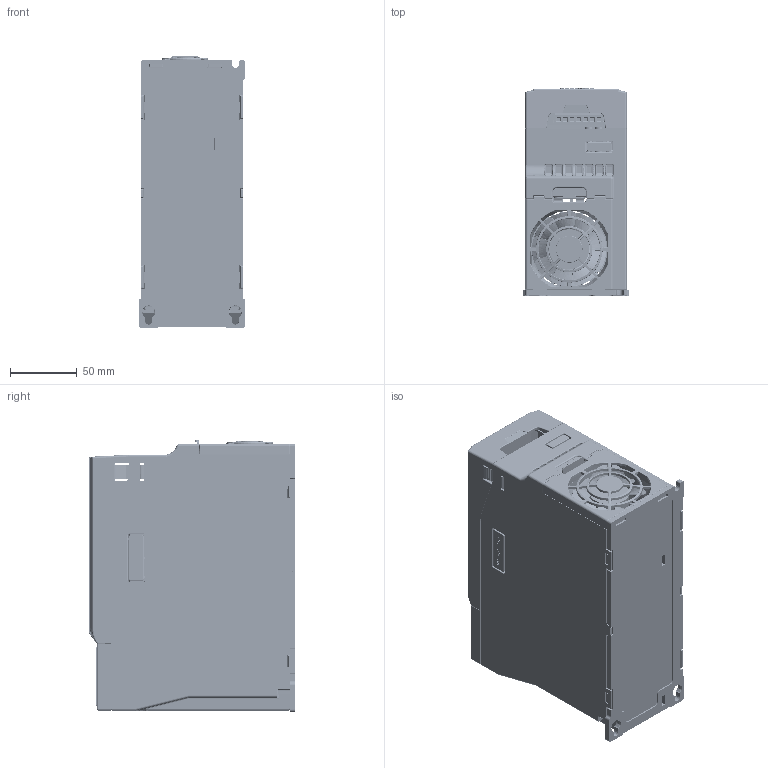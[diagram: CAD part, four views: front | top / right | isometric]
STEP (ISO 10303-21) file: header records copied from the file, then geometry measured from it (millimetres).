
FILE_DESCRIPTION(/* description */ (''),/* implementation_level */ '2;1');
FILE_NAME(/* name */ 'C:\Users\U390257\OneDrive - Danfoss\Documents\Работа\Текущие задачи\2022.04.26 Veichi 3D\Готовые модели\ac300-t3-r75_2r2_3d\ac300-t3-r75_2r2_3d.stp',/* time_stamp */ '2022-04-27T13:04:53+03:00',/* author */ ('U390257'),/* organization */ (''),/* preprocessor_version */ 'ST-DEVELOPER v18.1',/* originating_system */ 'Autodesk Inventor 2020',/* authorisation */ '');
FILE_SCHEMA (('AUTOMOTIVE_DESIGN { 1 0 10303 214 3 1 1 }'));
Products named in the file (33): ac300-t3-r75_2r2_3d; AC300-T3-2R2G-0000_ASM_146_ASM; AC300-T3-2R2G-D_ASM_31_ASM; AC300-T3-2R2G-P_ASM_23_ASM; AC300-T3-2R2G-P003_17_ASM; AC300-T3-2R2G-P004_ASM_30_ASM; AC300-T3-2R2G-H001_31; AC300-T3-2R2G-F001_15_ASM; AC300-T3-2R2G-F001_15_1; AC300-T3-2R2G-F001_15_2; AC300-T3-2R2G-F001_15_3; AC300-T3-2R2G-F001_15_4; AC300-T3-2R2G-F001_15_5; AC300-T3-2R2G-F001_15_6; AC300-T3-2R2G-F001_15_7; AC300-T3-2R2G-F001_15_8; AC300-T3-2R2G-F001_15_9; AC300-T3-2R2G-F001_15_10; AC300-T3-2R2G-F001_15_11; AC300-T3-2R2G-F001_15_12; AC300-T3-2R2G-F001_15_13; Part36; AC300-T3-2R2G-A-P_ASM_7_ASM; AC300-T3-2R2G-A-P002_7; AC300-T3-2R2G-A-P005_2; VEDAVFD; display; display_1; knopka_prg; knopka_ust_pusk; knopka_ust_stop; knopka_ust_vybor; knopka_up
Assembly tree (33 placements, depth 4):
  ac300-t3-r75_2r2_3d
    AC300-T3-2R2G-0000_ASM_146_ASM
      AC300-T3-2R2G-D_ASM_31_ASM
      AC300-T3-2R2G-P_ASM_23_ASM
        AC300-T3-2R2G-P003_17_ASM
        AC300-T3-2R2G-P004_ASM_30_ASM
      AC300-T3-2R2G-H001_31
      AC300-T3-2R2G-F001_15_ASM
        AC300-T3-2R2G-F001_15_1
        AC300-T3-2R2G-F001_15_2
        AC300-T3-2R2G-F001_15_3
        AC300-T3-2R2G-F001_15_4
        AC300-T3-2R2G-F001_15_5
        AC300-T3-2R2G-F001_15_6
        AC300-T3-2R2G-F001_15_7
        AC300-T3-2R2G-F001_15_8
        AC300-T3-2R2G-F001_15_9
        AC300-T3-2R2G-F001_15_10
        AC300-T3-2R2G-F001_15_11
        AC300-T3-2R2G-F001_15_12
        AC300-T3-2R2G-F001_15_13
        Part36
      AC300-T3-2R2G-A-P_ASM_7_ASM
        AC300-T3-2R2G-A-P002_7
        AC300-T3-2R2G-A-P005_2
    VEDAVFD
    display
      display_1
      knopka_prg
      knopka_up  x2
      knopka_ust_pusk
      knopka_ust_stop
      knopka_ust_vybor
Bounding box: 80 x 155.3 x 204 mm (x, y, z)
Volume: 461237.9 mm3; surface area: 446832.6 mm2
Topology: 73 solids, 87 shells, 15257 faces, 40783 edges, 26433 vertices
Faces by surface type: plane 9414, bspline 3393, cylinder 2058, torus 170, cone 162, sphere 60
Full cylindrical faces by diameter (mm): 0.1 x4, 0.2 x3, 0.3 x10, 0.4 x4, 0.445 x3, 0.45 x2, 0.5 x26, 0.6 x4, 0.635 x2, 0.762 x11, 0.8 x12, 0.9 x8, 1 x1, 1.5 x14, 1.6 x2, 1.75 x5, 2 x2, 2.1 x1, 2.5 x53, 2.6 x4, 2.849 x1, 3 x11, 3.3 x1, 3.5 x3, 3.8 x20, 4 x6, 4.1 x1, 4.4 x8, 4.6 x1, 4.7 x10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
Entity records: 546909 total; most frequent: CARTESIAN_POINT 174628, ORIENTED_EDGE 81358, DIRECTION 67249, EDGE_CURVE 40686, LINE 28111, VECTOR 28111, VERTEX_POINT 26403, AXIS2_PLACEMENT_3D 19569
